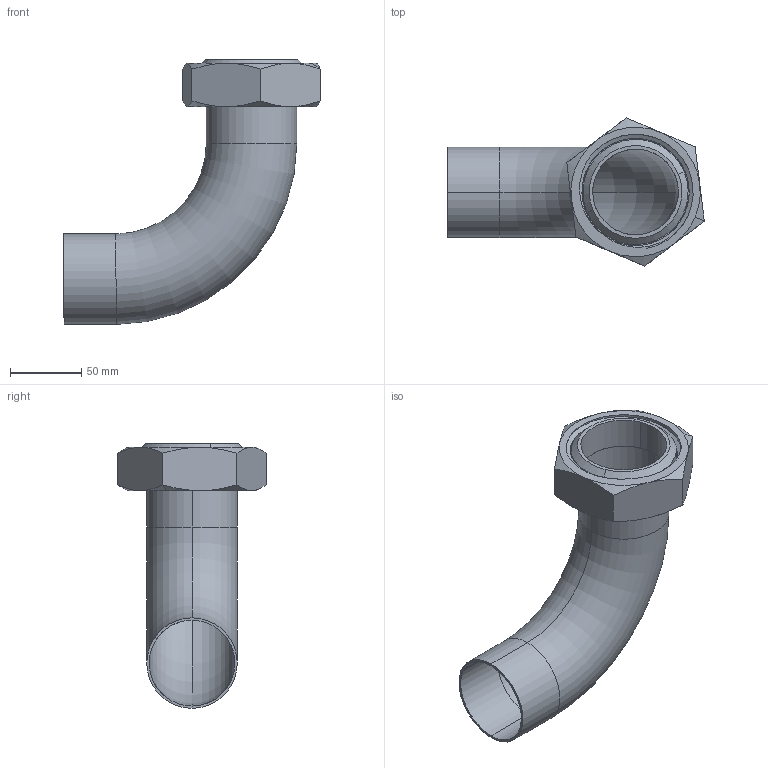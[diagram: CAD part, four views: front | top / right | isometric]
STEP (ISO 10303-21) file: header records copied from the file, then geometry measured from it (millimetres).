
FILE_DESCRIPTION (( 'STEP AP214' ), '1' );
FILE_NAME ('E2F2.5 REV1.STEP', '2025-06-13T16:24:28', ( '' ), ( '' ), 'SwSTEP 2.0', 'SolidWorks 2022', '' );
FILE_SCHEMA (( 'AUTOMOTIVE_DESIGN' ));
Length unit declared in the file: inch
Products named in the file (4): 14PR2.5 REV1; E2S2.5; 13H2.5; E2F2.5 REV1
Assembly tree (3 placements, depth 2):
  E2F2.5 REV1
    E2S2.5
    13H2.5
    14PR2.5 REV1
Bounding box: 180.15 x 104.06 x 185.8 mm (x, y, z)
Volume: 163537.7 mm3; surface area: 123476.6 mm2
Topology: 3 solids, 3 shells, 67 faces, 149 edges, 91 vertices
Faces by surface type: cylinder 24, plane 16, cone 16, bspline 7, torus 4
Entity records: 3453 total; most frequent: CARTESIAN_POINT 1887, ORIENTED_EDGE 298, DIRECTION 287, EDGE_CURVE 149, AXIS2_PLACEMENT_3D 122, VERTEX_POINT 91, EDGE_LOOP 76, ADVANCED_FACE 67
